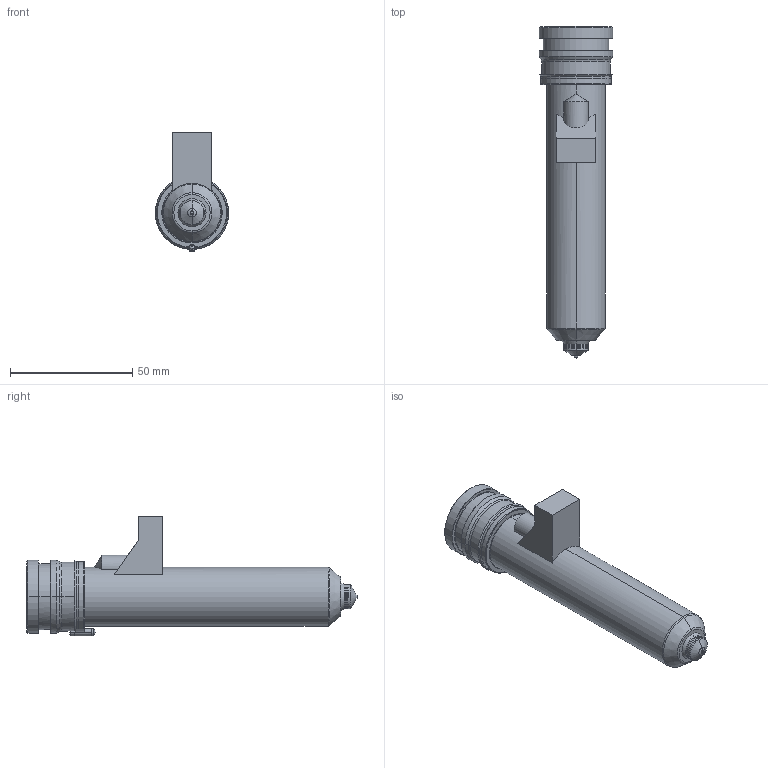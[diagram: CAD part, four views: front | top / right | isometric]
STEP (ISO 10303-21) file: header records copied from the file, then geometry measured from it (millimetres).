
FILE_DESCRIPTION((''),'2;1');
FILE_NAME('MPN-10-29-VSA10-116-M','2026-02-05T13:00:53',('UPTIO'),('Thermoplay S.p.A.'),'CREO PARAMETRIC BY PTC INC, 2023494','CREO PARAMETRIC BY PTC INC, 2023494','');
FILE_SCHEMA(('CONFIG_CONTROL_DESIGN','SHAPE_APPEARANCE_LAYERS_GROUPS'));
Length unit declared in the file: millimetre
Products named in the file (1): MPN-10-29-VSA10-116-M
Bounding box: 30 x 136 x 49 mm (x, y, z)
Volume: 43076.6 mm3; surface area: 44276.5 mm2
Topology: 3 solids, 5 shells, 546 faces, 1379 edges, 839 vertices
Faces by surface type: cylinder 181, plane 145, bspline 71, torus 69, cone 68, sphere 8, extrusion 4
Entity records: 26397 total; most frequent: CARTESIAN_POINT 10533, ORIENTED_EDGE 2744, DIRECTION 2618, EDGE_CURVE 1372, AXIS2_PLACEMENT_3D 1038, VERTEX_POINT 839, EDGE_LOOP 575, CIRCLE 566
